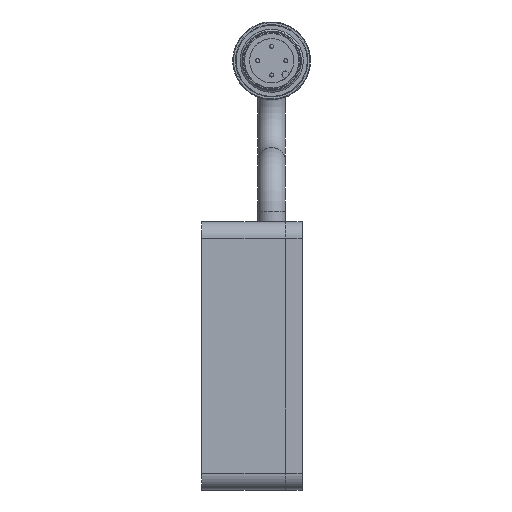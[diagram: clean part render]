
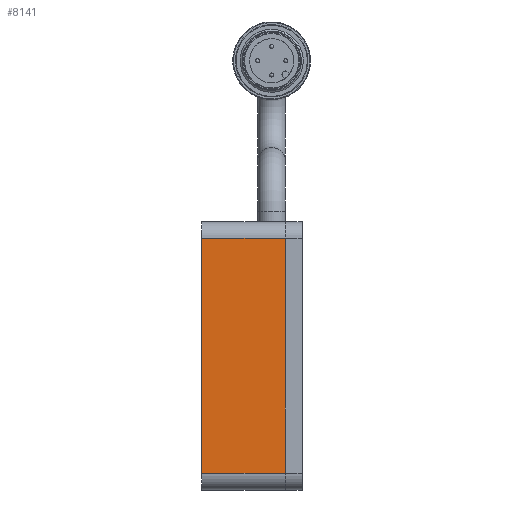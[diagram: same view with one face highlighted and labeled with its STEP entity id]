
A CAD part, left-side view. The second image highlights one B-rep face of the part: STEP entity #8141.
In plain terms, the highlighted planar face has unit normal (-1, 0, 0).
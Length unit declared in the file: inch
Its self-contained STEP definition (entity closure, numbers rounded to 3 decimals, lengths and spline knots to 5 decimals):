
#183 = CARTESIAN_POINT ( 'NONE',  ( -6.5, 0.3125, 0.875 ) ) ;
#307 = VERTEX_POINT ( 'NONE', #5858 ) ;
#590 = VERTEX_POINT ( 'NONE', #6707 ) ;
#697 = VECTOR ( 'NONE', #5608, 39.37008 ) ;
#793 = EDGE_CURVE ( 'NONE', #590, #6507, #2640, .T. ) ;
#1009 = CARTESIAN_POINT ( 'NONE',  ( -6.5, -0.3125, 1. ) ) ;
#1035 = ORIENTED_EDGE ( 'NONE', *, *, #793, .T. ) ;
#1054 = PLANE ( 'NONE',  #8262 ) ;
#1341 = VERTEX_POINT ( 'NONE', #183 ) ;
#1703 = LINE ( 'NONE', #3266, #2558 ) ;
#1970 = DIRECTION ( 'NONE',  ( 1., 0., 0. ) ) ;
#2198 = DIRECTION ( 'NONE',  ( 0., 1., 0. ) ) ;
#2558 = VECTOR ( 'NONE', #8557, 39.37008 ) ;
#2640 = LINE ( 'NONE', #1009, #7464 ) ;
#2783 = LINE ( 'NONE', #5987, #9472 ) ;
#3196 = DIRECTION ( 'NONE',  ( 0., 0., 1. ) ) ;
#3266 = CARTESIAN_POINT ( 'NONE',  ( -6.5, 0.3125, 1. ) ) ;
#4552 = CARTESIAN_POINT ( 'NONE',  ( -6.5, -0.3125, 0.875 ) ) ;
#5279 = ORIENTED_EDGE ( 'NONE', *, *, #7490, .F. ) ;
#5608 = DIRECTION ( 'NONE',  ( 0., -1., 0. ) ) ;
#5696 = FACE_OUTER_BOUND ( 'NONE', #7552, .T. ) ;
#5858 = CARTESIAN_POINT ( 'NONE',  ( -6.5, 0.3125, -0.875 ) ) ;
#5974 = EDGE_CURVE ( 'NONE', #6507, #1341, #2783, .T. ) ;
#5987 = CARTESIAN_POINT ( 'NONE',  ( -6.5, 0.3125, 0.875 ) ) ;
#6168 = ORIENTED_EDGE ( 'NONE', *, *, #8859, .T. ) ;
#6507 = VERTEX_POINT ( 'NONE', #4552 ) ;
#6707 = CARTESIAN_POINT ( 'NONE',  ( -6.5, -0.3125, -0.875 ) ) ;
#7222 = CARTESIAN_POINT ( 'NONE',  ( -6.5, 0.3125, 1. ) ) ;
#7464 = VECTOR ( 'NONE', #3196, 39.37008 ) ;
#7490 = EDGE_CURVE ( 'NONE', #307, #1341, #1703, .T. ) ;
#7552 = EDGE_LOOP ( 'NONE', ( #5279, #6168, #1035, #9133 ) ) ;
#7887 = DIRECTION ( 'NONE',  ( 0., 0., -1. ) ) ;
#7954 = LINE ( 'NONE', #9462, #697 ) ;
#8141 = ADVANCED_FACE ( 'NONE', ( #5696 ), #1054, .F. ) ;
#8262 = AXIS2_PLACEMENT_3D ( 'NONE', #7222, #1970, #7887 ) ;
#8557 = DIRECTION ( 'NONE',  ( 0., 0., 1. ) ) ;
#8859 = EDGE_CURVE ( 'NONE', #307, #590, #7954, .T. ) ;
#9133 = ORIENTED_EDGE ( 'NONE', *, *, #5974, .T. ) ;
#9462 = CARTESIAN_POINT ( 'NONE',  ( -6.5, 0.3125, -0.875 ) ) ;
#9472 = VECTOR ( 'NONE', #2198, 39.37008 ) ;
